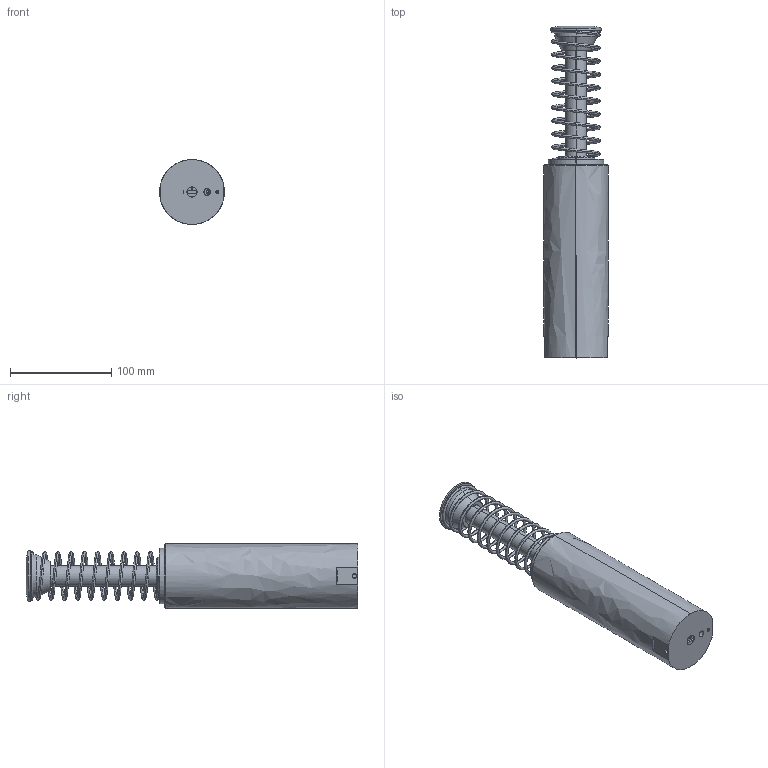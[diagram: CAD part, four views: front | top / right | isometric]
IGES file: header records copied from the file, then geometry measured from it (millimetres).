
Start section: SolidWorks IGES file using analytic representation for surfaces
Bounding box: 64 x 328 x 64 mm (x, y, z)
Surface area: 82645.7 mm2 (no closed solid volume)
Topology: 0 solids, 0 shells, 98 faces, 1974 edges, 1972 vertices
Faces by surface type: revolution 56, bspline 42
